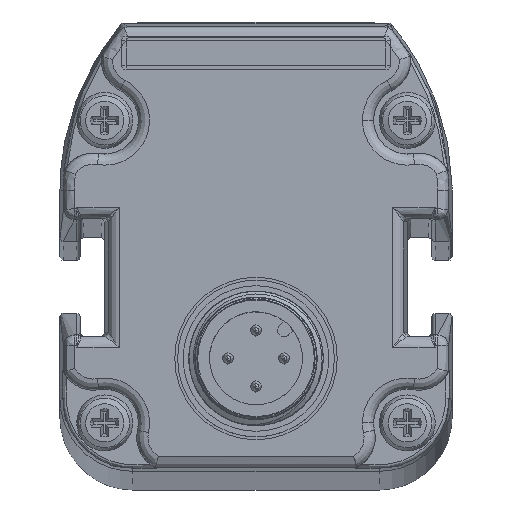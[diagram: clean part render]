
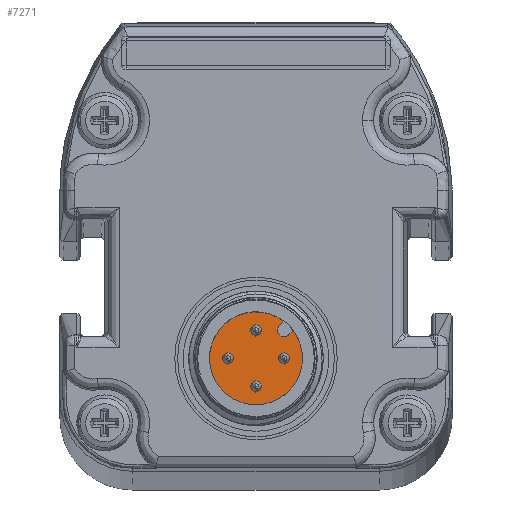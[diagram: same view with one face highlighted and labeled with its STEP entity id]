
A CAD part, top view. The second image highlights one B-rep face of the part: STEP entity #7271.
In plain terms, the highlighted planar face has unit normal (0, 0, 1).
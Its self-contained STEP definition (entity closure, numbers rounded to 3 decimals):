
#4880=PLANE('',#16763);
#5280=LINE('',#23230,#6265);
#5281=LINE('',#23234,#6266);
#6265=VECTOR('',#18365,1.);
#6266=VECTOR('',#18368,1.);
#7271=ADVANCED_FACE('',(#8065,#8066,#8067,#8068,#8069),#4880,.T.);
#8065=FACE_BOUND('',#8373,.T.);
#8066=FACE_BOUND('',#8374,.T.);
#8067=FACE_BOUND('',#8375,.T.);
#8068=FACE_BOUND('',#8376,.T.);
#8069=FACE_BOUND('',#8377,.T.);
#8373=EDGE_LOOP('',(#9794,#9795,#9796,#9797));
#8374=EDGE_LOOP('',(#9798));
#8375=EDGE_LOOP('',(#9799));
#8376=EDGE_LOOP('',(#9800));
#8377=EDGE_LOOP('',(#9801));
#9794=ORIENTED_EDGE('',*,*,#14505,.T.);
#9795=ORIENTED_EDGE('',*,*,#14506,.T.);
#9796=ORIENTED_EDGE('',*,*,#14507,.F.);
#9797=ORIENTED_EDGE('',*,*,#14508,.T.);
#9798=ORIENTED_EDGE('',*,*,#14509,.T.);
#9799=ORIENTED_EDGE('',*,*,#14510,.T.);
#9800=ORIENTED_EDGE('',*,*,#14511,.T.);
#9801=ORIENTED_EDGE('',*,*,#14512,.T.);
#13092=VERTEX_POINT('',#23228);
#13093=VERTEX_POINT('',#23229);
#13094=VERTEX_POINT('',#23231);
#13095=VERTEX_POINT('',#23233);
#13096=VERTEX_POINT('',#23236);
#13097=VERTEX_POINT('',#23238);
#13098=VERTEX_POINT('',#23240);
#13099=VERTEX_POINT('',#23242);
#14505=EDGE_CURVE('',#13092,#13093,#16109,.T.);
#14506=EDGE_CURVE('',#13093,#13094,#5280,.T.);
#14507=EDGE_CURVE('',#13095,#13094,#16110,.T.);
#14508=EDGE_CURVE('',#13095,#13092,#5281,.T.);
#14509=EDGE_CURVE('',#13096,#13096,#16111,.T.);
#14510=EDGE_CURVE('',#13097,#13097,#16112,.T.);
#14511=EDGE_CURVE('',#13098,#13098,#16113,.T.);
#14512=EDGE_CURVE('',#13099,#13099,#16114,.T.);
#16109=CIRCLE('',#16757,0.6);
#16110=CIRCLE('',#16758,4.15);
#16111=CIRCLE('',#16759,0.5);
#16112=CIRCLE('',#16760,0.5);
#16113=CIRCLE('',#16761,0.5);
#16114=CIRCLE('',#16762,0.5);
#16757=AXIS2_PLACEMENT_3D('',#23227,#18363,#18364);
#16758=AXIS2_PLACEMENT_3D('',#23232,#18366,#18367);
#16759=AXIS2_PLACEMENT_3D('',#23235,#18369,#18370);
#16760=AXIS2_PLACEMENT_3D('',#23237,#18371,#18372);
#16761=AXIS2_PLACEMENT_3D('',#23239,#18373,#18374);
#16762=AXIS2_PLACEMENT_3D('',#23241,#18375,#18376);
#16763=AXIS2_PLACEMENT_3D('',#23243,#18377,#18378);
#18363=DIRECTION('',(0.,0.,-1.));
#18364=DIRECTION('',(1.,0.,0.));
#18365=DIRECTION('',(0.707,0.707,0.));
#18366=DIRECTION('',(0.,0.,-1.));
#18367=DIRECTION('',(1.,0.,0.));
#18368=DIRECTION('',(-0.707,-0.707,0.));
#18369=DIRECTION('',(0.,0.,-1.));
#18370=DIRECTION('',(1.,0.,0.));
#18371=DIRECTION('',(0.,0.,-1.));
#18372=DIRECTION('',(1.,0.,0.));
#18373=DIRECTION('',(0.,0.,-1.));
#18374=DIRECTION('',(1.,0.,0.));
#18375=DIRECTION('',(0.,0.,-1.));
#18376=DIRECTION('',(1.,0.,0.));
#18377=DIRECTION('',(0.,0.,1.));
#18378=DIRECTION('',(-1.,0.,0.));
#23227=CARTESIAN_POINT('',(24.525,10.069,405.168));
#23228=CARTESIAN_POINT('',(24.949,9.645,405.168));
#23229=CARTESIAN_POINT('',(24.101,10.493,405.168));
#23230=CARTESIAN_POINT('',(24.101,10.493,405.168));
#23231=CARTESIAN_POINT('',(24.494,10.887,405.168));
#23232=CARTESIAN_POINT('',(22.015,7.559,405.168));
#23233=CARTESIAN_POINT('',(25.343,10.038,405.168));
#23234=CARTESIAN_POINT('',(25.343,10.038,405.168));
#23235=CARTESIAN_POINT('',(19.515,7.559,405.168));
#23236=CARTESIAN_POINT('',(20.015,7.559,405.168));
#23237=CARTESIAN_POINT('',(24.515,7.559,405.168));
#23238=CARTESIAN_POINT('',(25.015,7.559,405.168));
#23239=CARTESIAN_POINT('',(22.015,5.059,405.168));
#23240=CARTESIAN_POINT('',(22.515,5.059,405.168));
#23241=CARTESIAN_POINT('',(22.015,10.059,405.168));
#23242=CARTESIAN_POINT('',(22.515,10.059,405.168));
#23243=CARTESIAN_POINT('',(22.015,7.559,405.168));
